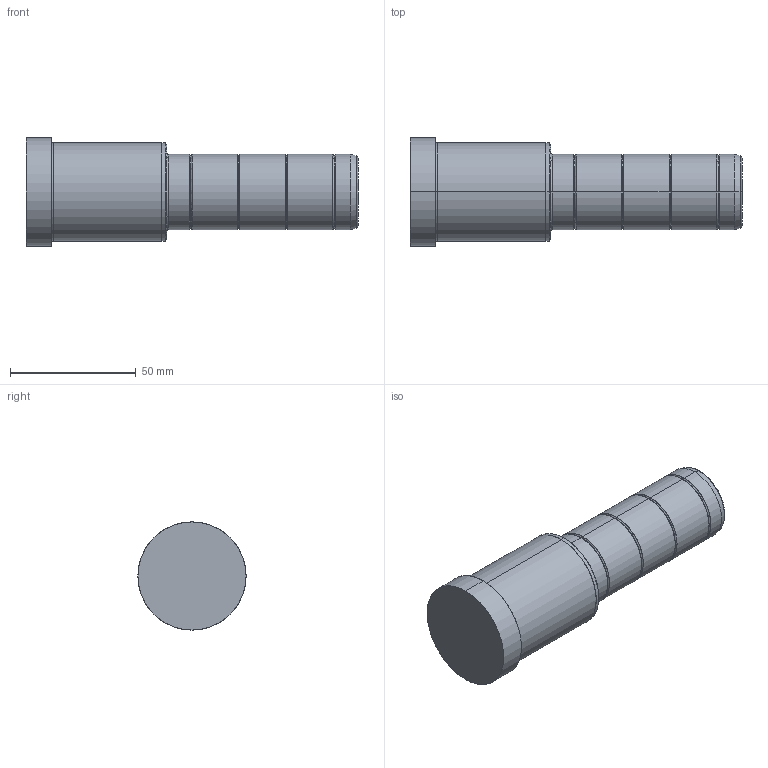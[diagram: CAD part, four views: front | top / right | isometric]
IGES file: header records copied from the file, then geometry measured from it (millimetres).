
Start section: SolidWorks IGES file using analytic representation for surfaces
Global section: file name: C:\Documents and Settings\kalite-mail\Desktop\IGS\D02\30\D02 - 30x56x76.IGS; native system: SolidWorks 2008; preprocessor: SolidWorks 2008; author: kalite-mail; date: 080617.091322; units: millimetre
Bounding box: 132 x 43 x 43 mm (x, y, z)
Surface area: 17113.6 mm2 (no closed solid volume)
Topology: 0 solids, 0 shells, 48 faces, 776 edges, 776 vertices
Faces by surface type: bspline 26, revolution 22
